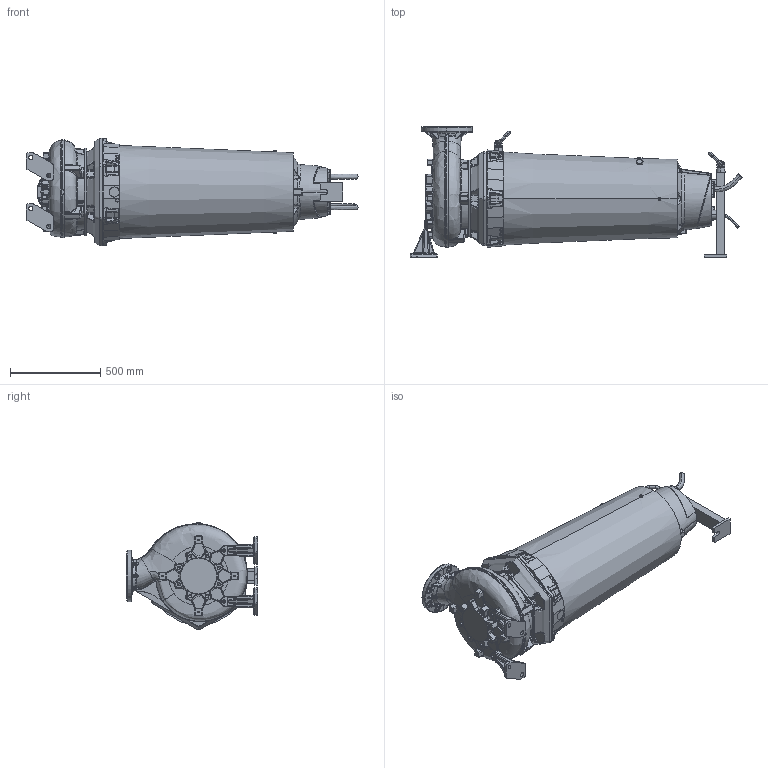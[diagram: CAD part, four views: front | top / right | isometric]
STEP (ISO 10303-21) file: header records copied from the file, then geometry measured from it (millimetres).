
FILE_DESCRIPTION (( 'STEP AP214' ), '1' );
FILE_NAME ('PE5_XFP150J-CH2_DRY HA_B_NG2.STEP', '2017-03-16T06:56:42', ( '' ), ( '' ), 'SwSTEP 2.0', 'SolidWorks 2017', '' );
FILE_SCHEMA (( 'AUTOMOTIVE_DESIGN' ));
Length unit declared in the file: millimetre
Products named in the file (1): PE5_XFP150J-CH2_DRY HA_B_NG2
Bounding box: 1840.38 x 726.42 x 595.59 mm (x, y, z)
Volume: 273625236.8 mm3; surface area: 3472185 mm2
Topology: 6 solids, 8 shells, 2627 faces, 6447 edges, 3761 vertices
Faces by surface type: bspline 905, cylinder 557, plane 489, torus 320, cone 280, sphere 76
Entity records: 194110 total; most frequent: CARTESIAN_POINT 111111, ORIENTED_EDGE 12644, DIRECTION 9724, EDGE_CURVE 6322, AXIS2_PLACEMENT_3D 4072, VERTEX_POINT 3757, EDGE_LOOP 2713, UNCERTAINTY_MEASURE_WITH_UNIT 2635
